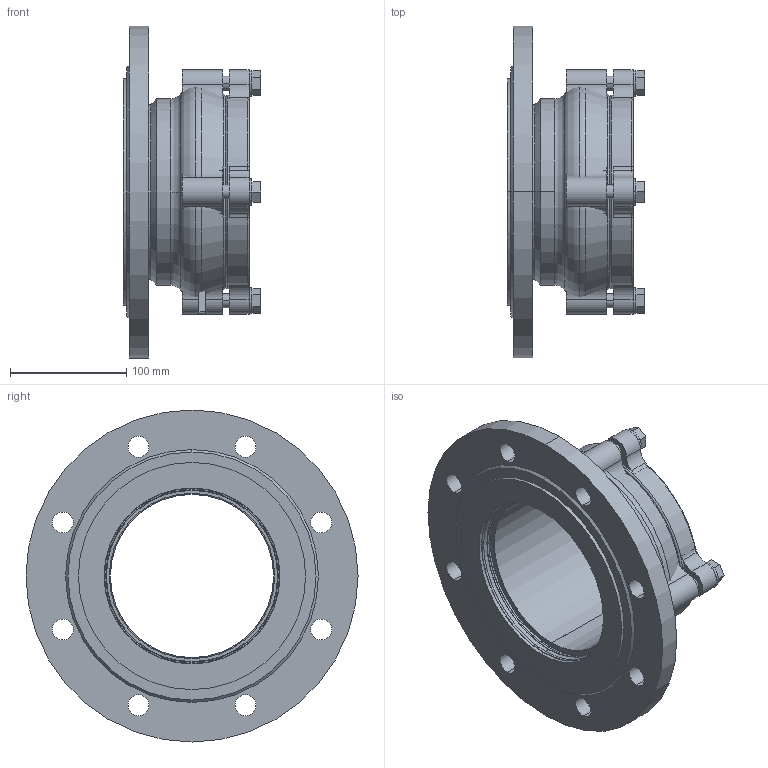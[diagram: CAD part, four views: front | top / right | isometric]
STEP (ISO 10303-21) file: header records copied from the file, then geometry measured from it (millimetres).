
FILE_DESCRIPTION(('STEP AP214'),'1');
FILE_NAME('U:/VDI-Daten/7200-(0400)/7200_PN16_DN150_140.STP','2012-06-15T09:53:11',(' '),(' '),'Spatial InterOp 3D',' ',' ');
FILE_SCHEMA(('automotive_design'));
Length unit declared in the file: millimetre
Products named in the file (27): 3D-Objekt
Bounding box: 118 x 285 x 285 mm (x, y, z)
Volume: 1613855.3 mm3; surface area: 430261.9 mm2
Topology: 27 solids, 27 shells, 211 faces, 464 edges, 308 vertices
Faces by surface type: plane 98, cylinder 95, torus 12, cone 6
Entity records: 8267 total; most frequent: DIRECTION 1174, CARTESIAN_POINT 1010, ORIENTED_EDGE 928, AXIS2_PLACEMENT_3D 472, EDGE_CURVE 464, VERTEX_POINT 308, EDGE_LOOP 240, STYLED_ITEM 238
